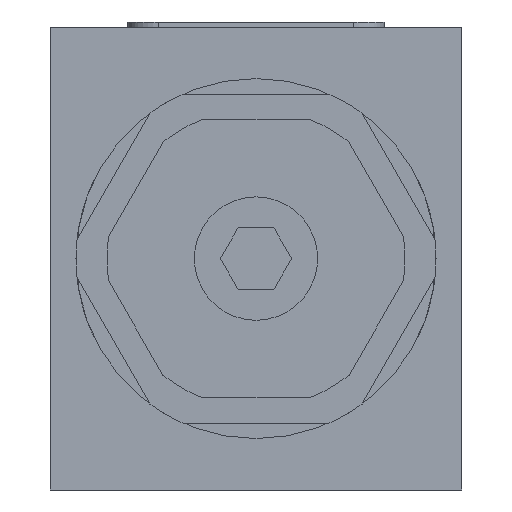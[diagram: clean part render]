
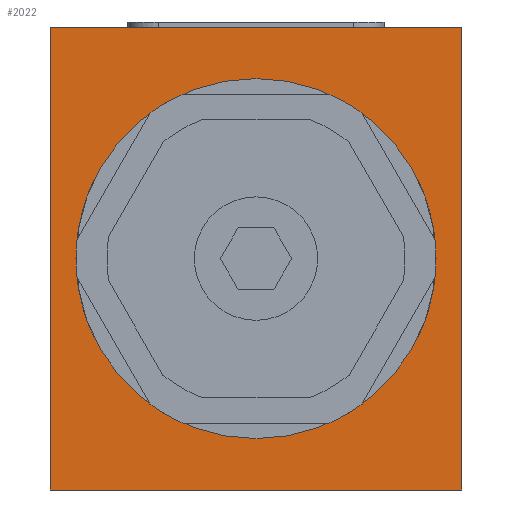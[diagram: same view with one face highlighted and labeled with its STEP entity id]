
A CAD part, left-side view. The second image highlights one B-rep face of the part: STEP entity #2022.
In plain terms, the highlighted planar face has unit normal (-1, 0, 0).
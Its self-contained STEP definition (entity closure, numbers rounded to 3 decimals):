
#27=DIRECTION('',(0.,1.,0.));
#28=VECTOR('',#27,40.);
#29=CARTESIAN_POINT('',(0.,-20.,22.5));
#30=LINE('',#29,#28);
#31=DIRECTION('',(0.,0.,1.));
#32=VECTOR('',#31,45.);
#33=CARTESIAN_POINT('',(0.,-20.,-22.5));
#34=LINE('',#33,#32);
#35=DIRECTION('',(0.,-1.,0.));
#36=VECTOR('',#35,40.);
#37=CARTESIAN_POINT('',(0.,20.,-22.5));
#38=LINE('',#37,#36);
#39=DIRECTION('',(0.,0.,-1.));
#40=VECTOR('',#39,45.);
#41=CARTESIAN_POINT('',(0.,20.,22.5));
#42=LINE('',#41,#40);
#43=CARTESIAN_POINT('',(0.,0.,0.));
#44=DIRECTION('',(1.,0.,0.));
#45=DIRECTION('',(0.,1.,0.));
#46=AXIS2_PLACEMENT_3D('',#43,#44,#45);
#48=CARTESIAN_POINT('',(0.,0.,0.));
#49=DIRECTION('',(1.,0.,0.));
#50=DIRECTION('',(0.,-1.,0.));
#51=AXIS2_PLACEMENT_3D('',#48,#49,#50);
#1549=CARTESIAN_POINT('',(0.,-20.,22.5));
#1550=CARTESIAN_POINT('',(0.,20.,22.5));
#1551=VERTEX_POINT('',#1549);
#1552=VERTEX_POINT('',#1550);
#1553=CARTESIAN_POINT('',(0.,-20.,-22.5));
#1554=VERTEX_POINT('',#1553);
#1555=CARTESIAN_POINT('',(0.,20.,-22.5));
#1556=VERTEX_POINT('',#1555);
#1997=CARTESIAN_POINT('',(0.,17.5,0.));
#1998=CARTESIAN_POINT('',(0.,-17.5,0.));
#1999=VERTEX_POINT('',#1997);
#2000=VERTEX_POINT('',#1998);
#2001=CARTESIAN_POINT('',(0.,0.,0.));
#2002=DIRECTION('',(1.,0.,0.));
#2003=DIRECTION('',(0.,0.,-1.));
#2004=AXIS2_PLACEMENT_3D('',#2001,#2002,#2003);
#2005=PLANE('',#2004);
#2007=ORIENTED_EDGE('',*,*,#2006,.F.);
#2009=ORIENTED_EDGE('',*,*,#2008,.F.);
#2011=ORIENTED_EDGE('',*,*,#2010,.F.);
#2013=ORIENTED_EDGE('',*,*,#2012,.F.);
#2014=EDGE_LOOP('',(#2007,#2009,#2011,#2013));
#2015=FACE_OUTER_BOUND('',#2014,.F.);
#2017=ORIENTED_EDGE('',*,*,#2016,.F.);
#2019=ORIENTED_EDGE('',*,*,#2018,.F.);
#2020=EDGE_LOOP('',(#2017,#2019));
#2021=FACE_BOUND('',#2020,.F.);
#47=CIRCLE('',#46,17.5);
#52=CIRCLE('',#51,17.5);
#2006=EDGE_CURVE('',#1551,#1552,#30,.T.);
#2008=EDGE_CURVE('',#1554,#1551,#34,.T.);
#2010=EDGE_CURVE('',#1556,#1554,#38,.T.);
#2012=EDGE_CURVE('',#1552,#1556,#42,.T.);
#2016=EDGE_CURVE('',#1999,#2000,#47,.T.);
#2018=EDGE_CURVE('',#2000,#1999,#52,.T.);
#2022=ADVANCED_FACE('',(#2015,#2021),#2005,.F.);
